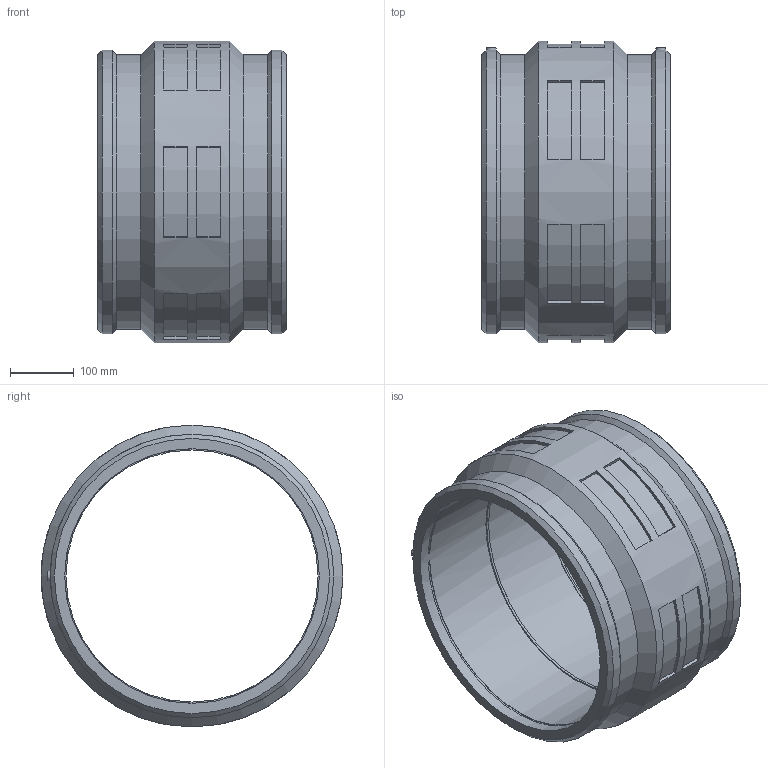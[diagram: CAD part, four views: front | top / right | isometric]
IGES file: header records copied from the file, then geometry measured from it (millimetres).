
Global section: file name: 460104400.ipt; native system: Autodesk Inventor 2015; preprocessor: unknown; author: KIM; date: 20171106.093425; units: millimetre
Bounding box: 296 x 474 x 474 mm (x, y, z)
Volume: 10482827.2 mm3; surface area: 903853.8 mm2
Topology: 1 solids, 1 shells, 98 faces, 238 edges, 158 vertices
Faces by surface type: plane 60, cylinder 19, cone 12, revolution 7
Full cylindrical faces by diameter (mm): 4 x2, 432.193 x2, 445.56 x2, 474 x1
